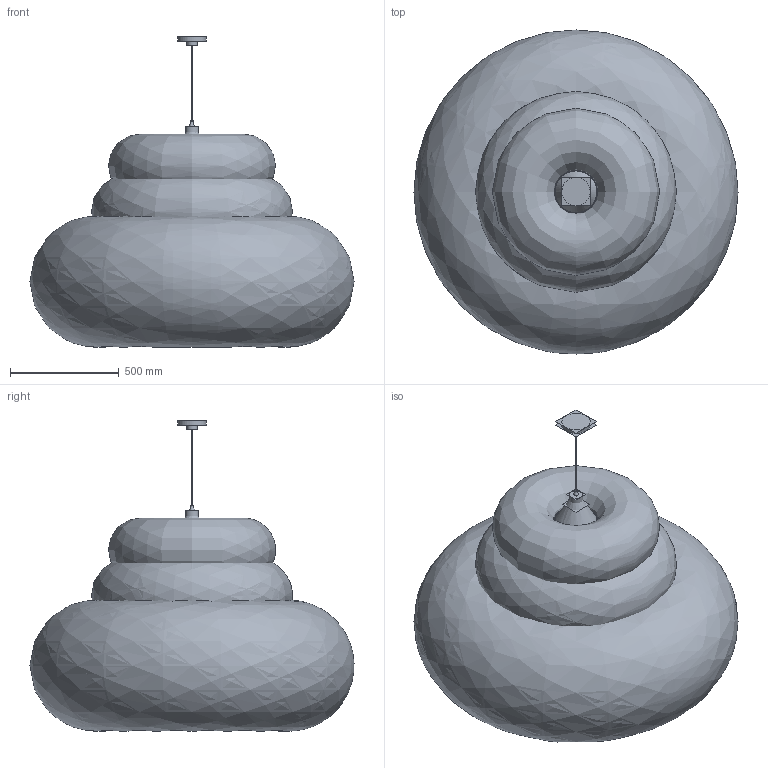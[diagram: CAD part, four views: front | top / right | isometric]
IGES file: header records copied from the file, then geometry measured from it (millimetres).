
Global section: file name: C:\Users\utente\Desktop\DANESE RG\3D Danese\FALKLAND\FALKLAND SOSPENSIONE 85.igs; native system: Rhinoceros ( Mar  9 2011 ); preprocessor: Trout Lake IGES 012 Mar  9 2011; date: 170725.140147; units: millimetre
Bounding box: 1487.21 x 1487.07 x 1424.71 mm (x, y, z)
Surface area: 34770230.5 mm2 (no closed solid volume)
Topology: 0 solids, 0 shells, 49 faces, 137 edges, 95 vertices
Faces by surface type: bspline 49
